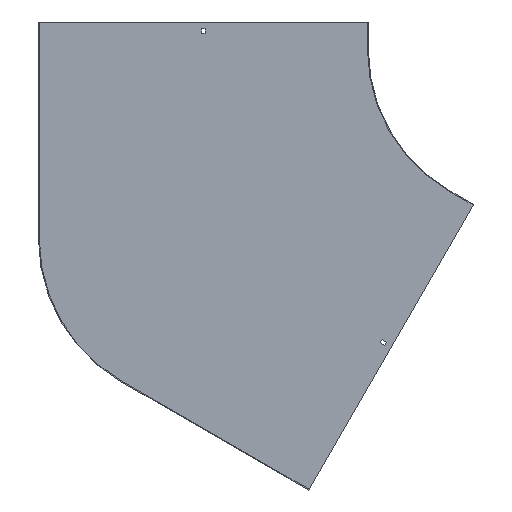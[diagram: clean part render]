
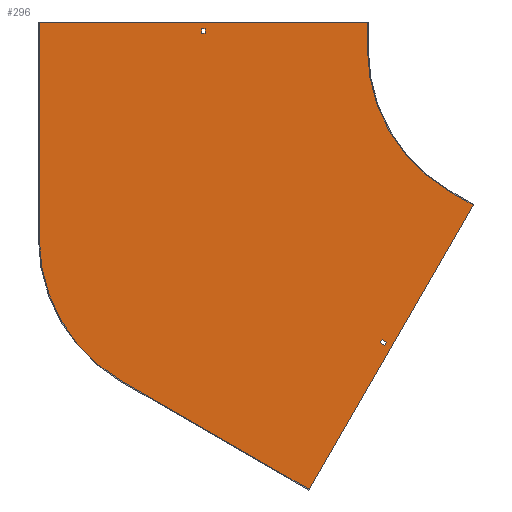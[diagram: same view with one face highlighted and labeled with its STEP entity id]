
A CAD part, front view. The second image highlights one B-rep face of the part: STEP entity #296.
In plain terms, the highlighted planar face has unit normal (0, -1, 0).
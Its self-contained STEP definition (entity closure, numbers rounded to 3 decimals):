
#11 = CARTESIAN_POINT ( 'NONE',  ( 0., -1.5, 0. ) ) ;
#14 = ORIENTED_EDGE ( 'NONE', *, *, #101, .F. ) ;
#46 = ORIENTED_EDGE ( 'NONE', *, *, #442, .T. ) ;
#47 = EDGE_CURVE ( 'NONE', #491, #802, #497, .T. ) ;
#60 = VECTOR ( 'NONE', #146, 1000. ) ;
#61 = VECTOR ( 'NONE', #416, 1000. ) ;
#63 = VECTOR ( 'NONE', #742, 1000. ) ;
#68 = ORIENTED_EDGE ( 'NONE', *, *, #786, .F. ) ;
#70 = VERTEX_POINT ( 'NONE', #352 ) ;
#72 = CARTESIAN_POINT ( 'NONE',  ( -268.716, -1.5, -541.43 ) ) ;
#77 = DIRECTION ( 'NONE',  ( 0., 0., -1. ) ) ;
#79 = VERTEX_POINT ( 'NONE', #835 ) ;
#88 = ORIENTED_EDGE ( 'NONE', *, *, #452, .T. ) ;
#89 = LINE ( 'NONE', #615, #118 ) ;
#93 = AXIS2_PLACEMENT_3D ( 'NONE', #543, #518, #476 ) ;
#101 = EDGE_CURVE ( 'NONE', #659, #107, #89, .T. ) ;
#106 = VECTOR ( 'NONE', #372, 1000. ) ;
#107 = VERTEX_POINT ( 'NONE', #227 ) ;
#112 = LINE ( 'NONE', #770, #356 ) ;
#118 = VECTOR ( 'NONE', #557, 1000. ) ;
#123 = EDGE_CURVE ( 'NONE', #79, #137, #195, .T. ) ;
#125 = VERTEX_POINT ( 'NONE', #348 ) ;
#126 = CARTESIAN_POINT ( 'NONE',  ( 32.909, -1.5, -19. ) ) ;
#137 = VERTEX_POINT ( 'NONE', #672 ) ;
#146 = DIRECTION ( 'NONE',  ( 1., 0., 0. ) ) ;
#148 = CARTESIAN_POINT ( 'NONE',  ( -298.375, -1.5, -516.801 ) ) ;
#152 = VERTEX_POINT ( 'NONE', #283 ) ;
#153 = LINE ( 'NONE', #148, #61 ) ;
#159 = CARTESIAN_POINT ( 'NONE',  ( -600., -1.5, -346.41 ) ) ;
#162 = LINE ( 'NONE', #769, #701 ) ;
#187 = LINE ( 'NONE', #126, #645 ) ;
#191 = VECTOR ( 'NONE', #628, 1000. ) ;
#194 = DIRECTION ( 'NONE',  ( 0.866, 0., -0.5 ) ) ;
#195 = LINE ( 'NONE', #404, #60 ) ;
#197 = VERTEX_POINT ( 'NONE', #761 ) ;
#200 = FACE_BOUND ( 'NONE', #605, .T. ) ;
#205 = CARTESIAN_POINT ( 'NONE',  ( -265.466, -1.5, -535.801 ) ) ;
#208 = VECTOR ( 'NONE', #292, 1000. ) ;
#211 = CARTESIAN_POINT ( 'NONE',  ( -300., -1.5, 0. ) ) ;
#214 = EDGE_CURVE ( 'NONE', #152, #756, #623, .T. ) ;
#217 = LINE ( 'NONE', #526, #382 ) ;
#224 = VERTEX_POINT ( 'NONE', #538 ) ;
#227 = CARTESIAN_POINT ( 'NONE',  ( -300., -1.5, 50. ) ) ;
#232 = ORIENTED_EDGE ( 'NONE', *, *, #527, .F. ) ;
#242 = CARTESIAN_POINT ( 'NONE',  ( -900., -1.5, 50. ) ) ;
#247 = CARTESIAN_POINT ( 'NONE',  ( -106.699, -1.5, -284.808 ) ) ;
#252 = DIRECTION ( 'NONE',  ( 0., 0., -1. ) ) ;
#269 = EDGE_CURVE ( 'NONE', #224, #152, #583, .T. ) ;
#274 = VERTEX_POINT ( 'NONE', #327 ) ;
#275 = CARTESIAN_POINT ( 'NONE',  ( -603.25, -1.5, 29. ) ) ;
#283 = CARTESIAN_POINT ( 'NONE',  ( -276.51, -1.5, -536.93 ) ) ;
#292 = DIRECTION ( 'NONE',  ( -0.5, 0., -0.866 ) ) ;
#295 = DIRECTION ( 'NONE',  ( 0., 0., -1. ) ) ;
#296 = ADVANCED_FACE ( 'NONE', ( #525, #797, #200 ), #463, .T. ) ;
#303 = VECTOR ( 'NONE', #252, 1000. ) ;
#327 = CARTESIAN_POINT ( 'NONE',  ( -750., -1.5, -606.218 ) ) ;
#331 = VERTEX_POINT ( 'NONE', #275 ) ;
#340 = ORIENTED_EDGE ( 'NONE', *, *, #739, .F. ) ;
#344 = VERTEX_POINT ( 'NONE', #205 ) ;
#348 = CARTESIAN_POINT ( 'NONE',  ( -596.75, -1.5, 29. ) ) ;
#352 = CARTESIAN_POINT ( 'NONE',  ( -900., -1.5, -346.41 ) ) ;
#356 = VECTOR ( 'NONE', #704, 1000. ) ;
#359 = EDGE_CURVE ( 'NONE', #344, #224, #153, .T. ) ;
#361 = CARTESIAN_POINT ( 'NONE',  ( -105.949, -1.5, -283.509 ) ) ;
#372 = DIRECTION ( 'NONE',  ( 0.866, 0., -0.5 ) ) ;
#374 = ORIENTED_EDGE ( 'NONE', *, *, #359, .F. ) ;
#381 = LINE ( 'NONE', #435, #303 ) ;
#382 = VECTOR ( 'NONE', #194, 1000. ) ;
#385 = DIRECTION ( 'NONE',  ( 0., 0., 1. ) ) ;
#404 = CARTESIAN_POINT ( 'NONE',  ( 0., -1.5, 38. ) ) ;
#405 = ORIENTED_EDGE ( 'NONE', *, *, #648, .T. ) ;
#406 = DIRECTION ( 'NONE',  ( -0.5, 0., -0.866 ) ) ;
#415 = EDGE_CURVE ( 'NONE', #274, #70, #428, .T. ) ;
#416 = DIRECTION ( 'NONE',  ( -0.866, 0., 0.5 ) ) ;
#420 = DIRECTION ( 'NONE',  ( 0., 1., 0. ) ) ;
#428 = CIRCLE ( 'NONE', #613, 300. ) ;
#435 = CARTESIAN_POINT ( 'NONE',  ( -300., -1.5, 50. ) ) ;
#442 = EDGE_CURVE ( 'NONE', #125, #331, #843, .T. ) ;
#443 = AXIS2_PLACEMENT_3D ( 'NONE', #11, #531, #77 ) ;
#452 = EDGE_CURVE ( 'NONE', #331, #79, #112, .T. ) ;
#463 = PLANE ( 'NONE',  #443 ) ;
#476 = DIRECTION ( 'NONE',  ( 0., 0., -1. ) ) ;
#479 = CARTESIAN_POINT ( 'NONE',  ( -406.699, -1.5, -804.423 ) ) ;
#488 = EDGE_CURVE ( 'NONE', #107, #795, #381, .T. ) ;
#491 = VERTEX_POINT ( 'NONE', #247 ) ;
#497 = LINE ( 'NONE', #361, #208 ) ;
#501 = CARTESIAN_POINT ( 'NONE',  ( 0., -1.5, 29. ) ) ;
#518 = DIRECTION ( 'NONE',  ( 0., -1., 0. ) ) ;
#525 = FACE_BOUND ( 'NONE', #610, .T. ) ;
#526 = CARTESIAN_POINT ( 'NONE',  ( -150., -1.5, -259.808 ) ) ;
#527 = EDGE_CURVE ( 'NONE', #197, #491, #217, .T. ) ;
#531 = DIRECTION ( 'NONE',  ( 0., -1., 0. ) ) ;
#537 = CARTESIAN_POINT ( 'NONE',  ( -406.699, -1.5, -804.423 ) ) ;
#538 = CARTESIAN_POINT ( 'NONE',  ( -273.26, -1.5, -531.301 ) ) ;
#540 = VECTOR ( 'NONE', #406, 1000. ) ;
#543 = CARTESIAN_POINT ( 'NONE',  ( 0., -1.5, 0. ) ) ;
#557 = DIRECTION ( 'NONE',  ( 1., 0., 0. ) ) ;
#583 = LINE ( 'NONE', #651, #540 ) ;
#591 = ORIENTED_EDGE ( 'NONE', *, *, #47, .F. ) ;
#605 = EDGE_LOOP ( 'NONE', ( #731, #405, #46, #88 ) ) ;
#610 = EDGE_LOOP ( 'NONE', ( #374, #68, #730, #775 ) ) ;
#613 = AXIS2_PLACEMENT_3D ( 'NONE', #159, #420, #683 ) ;
#615 = CARTESIAN_POINT ( 'NONE',  ( -901.5, -1.5, 50. ) ) ;
#623 = LINE ( 'NONE', #771, #106 ) ;
#628 = DIRECTION ( 'NONE',  ( -1., 0., 0. ) ) ;
#629 = ORIENTED_EDGE ( 'NONE', *, *, #415, .F. ) ;
#645 = VECTOR ( 'NONE', #808, 1000. ) ;
#648 = EDGE_CURVE ( 'NONE', #137, #125, #162, .T. ) ;
#651 = CARTESIAN_POINT ( 'NONE',  ( 25.115, -1.5, -14.5 ) ) ;
#659 = VERTEX_POINT ( 'NONE', #242 ) ;
#672 = CARTESIAN_POINT ( 'NONE',  ( -596.75, -1.5, 38. ) ) ;
#683 = DIRECTION ( 'NONE',  ( 0., 0., -1. ) ) ;
#686 = ORIENTED_EDGE ( 'NONE', *, *, #488, .F. ) ;
#701 = VECTOR ( 'NONE', #295, 1000. ) ;
#704 = DIRECTION ( 'NONE',  ( 0., 0., 1. ) ) ;
#705 = EDGE_LOOP ( 'NONE', ( #14, #814, #629, #800, #591, #232, #340, #686 ) ) ;
#713 = VECTOR ( 'NONE', #385, 1000. ) ;
#723 = LINE ( 'NONE', #732, #713 ) ;
#730 = ORIENTED_EDGE ( 'NONE', *, *, #214, .F. ) ;
#731 = ORIENTED_EDGE ( 'NONE', *, *, #123, .T. ) ;
#732 = CARTESIAN_POINT ( 'NONE',  ( -900., -1.5, -346.41 ) ) ;
#739 = EDGE_CURVE ( 'NONE', #795, #197, #776, .T. ) ;
#742 = DIRECTION ( 'NONE',  ( -0.866, 0., 0.5 ) ) ;
#756 = VERTEX_POINT ( 'NONE', #72 ) ;
#760 = EDGE_CURVE ( 'NONE', #802, #274, #798, .T. ) ;
#761 = CARTESIAN_POINT ( 'NONE',  ( -150., -1.5, -259.808 ) ) ;
#769 = CARTESIAN_POINT ( 'NONE',  ( -596.75, -1.5, 0. ) ) ;
#770 = CARTESIAN_POINT ( 'NONE',  ( -603.25, -1.5, 0. ) ) ;
#771 = CARTESIAN_POINT ( 'NONE',  ( -301.625, -1.5, -522.43 ) ) ;
#775 = ORIENTED_EDGE ( 'NONE', *, *, #269, .F. ) ;
#776 = CIRCLE ( 'NONE', #93, 300. ) ;
#783 = EDGE_CURVE ( 'NONE', #70, #659, #723, .T. ) ;
#786 = EDGE_CURVE ( 'NONE', #756, #344, #187, .T. ) ;
#795 = VERTEX_POINT ( 'NONE', #211 ) ;
#797 = FACE_OUTER_BOUND ( 'NONE', #705, .T. ) ;
#798 = LINE ( 'NONE', #479, #63 ) ;
#800 = ORIENTED_EDGE ( 'NONE', *, *, #760, .F. ) ;
#802 = VERTEX_POINT ( 'NONE', #537 ) ;
#808 = DIRECTION ( 'NONE',  ( 0.5, 0., 0.866 ) ) ;
#814 = ORIENTED_EDGE ( 'NONE', *, *, #783, .F. ) ;
#835 = CARTESIAN_POINT ( 'NONE',  ( -603.25, -1.5, 38. ) ) ;
#843 = LINE ( 'NONE', #501, #191 ) ;
